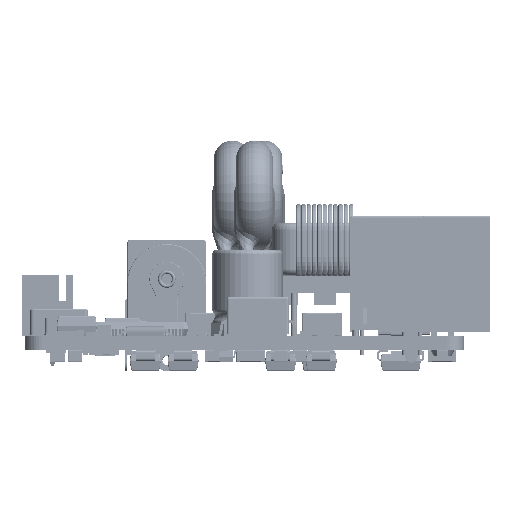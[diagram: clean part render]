
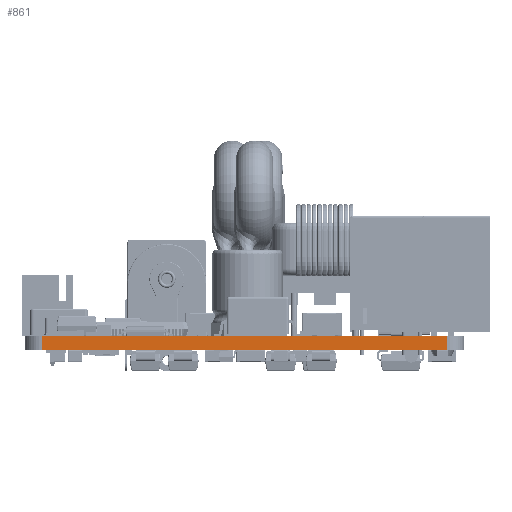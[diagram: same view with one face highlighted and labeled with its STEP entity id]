
A CAD part, left-side view. The second image highlights one B-rep face of the part: STEP entity #861.
In plain terms, the highlighted planar face has unit normal (-1, 0, 0).
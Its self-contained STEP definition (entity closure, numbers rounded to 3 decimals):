
#631 = EDGE_CURVE('',#632,#634,#636,.T.);
#632 = VERTEX_POINT('',#633);
#633 = CARTESIAN_POINT('',(0.013,48.,0.));
#634 = VERTEX_POINT('',#635);
#635 = CARTESIAN_POINT('',(0.013,48.,
    1.6));
#636 = LINE('',#637,#638);
#637 = CARTESIAN_POINT('',(0.013,48.,0.));
#638 = VECTOR('',#639,1.);
#639 = DIRECTION('',(0.,0.,1.));
#834 = VERTEX_POINT('',#835);
#835 = CARTESIAN_POINT('',(0.013,2.,
    1.6));
#842 = EDGE_CURVE('',#843,#834,#845,.T.);
#843 = VERTEX_POINT('',#844);
#844 = CARTESIAN_POINT('',(0.013,2.,0.));
#845 = LINE('',#846,#847);
#846 = CARTESIAN_POINT('',(0.013,2.,0.));
#847 = VECTOR('',#848,1.);
#848 = DIRECTION('',(0.,0.,1.));
#861 = ADVANCED_FACE('',(#862),#878,.T.);
#862 = FACE_BOUND('',#863,.T.);
#863 = EDGE_LOOP('',(#864,#865,#871,#872));
#864 = ORIENTED_EDGE('',*,*,#842,.T.);
#865 = ORIENTED_EDGE('',*,*,#866,.T.);
#866 = EDGE_CURVE('',#834,#634,#867,.T.);
#867 = LINE('',#868,#869);
#868 = CARTESIAN_POINT('',(0.013,2.,
    1.6));
#869 = VECTOR('',#870,1.);
#870 = DIRECTION('',(0.,1.,0.));
#871 = ORIENTED_EDGE('',*,*,#631,.F.);
#872 = ORIENTED_EDGE('',*,*,#873,.F.);
#873 = EDGE_CURVE('',#843,#632,#874,.T.);
#874 = LINE('',#875,#876);
#875 = CARTESIAN_POINT('',(0.013,2.,0.));
#876 = VECTOR('',#877,1.);
#877 = DIRECTION('',(0.,1.,0.));
#878 = PLANE('',#879);
#879 = AXIS2_PLACEMENT_3D('',#880,#881,#882);
#880 = CARTESIAN_POINT('',(0.013,2.,0.));
#881 = DIRECTION('',(-1.,0.,0.));
#882 = DIRECTION('',(0.,1.,0.));
